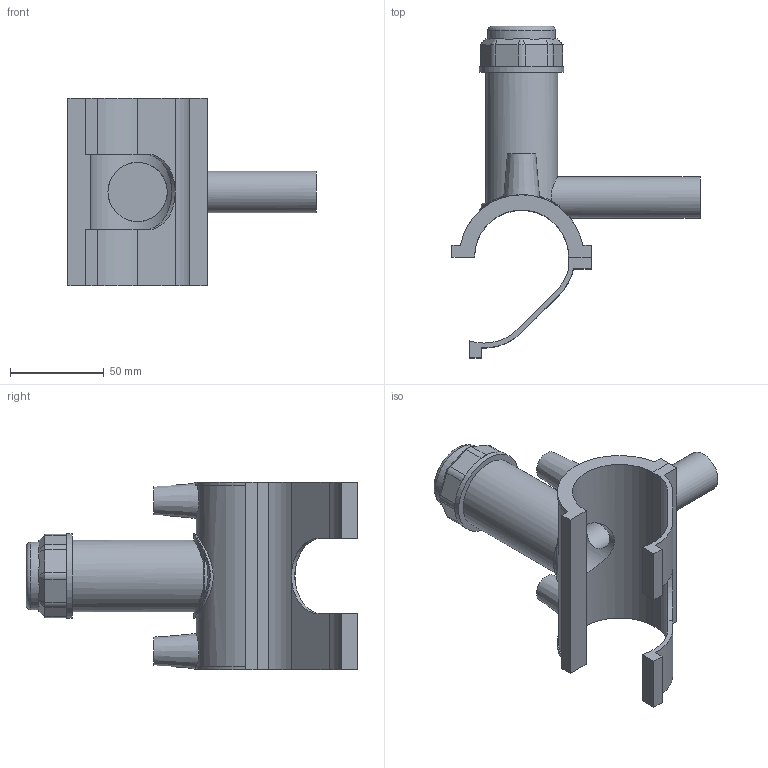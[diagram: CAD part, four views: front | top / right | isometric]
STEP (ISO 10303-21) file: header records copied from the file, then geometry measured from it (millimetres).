
FILE_DESCRIPTION(/* description */ ('PLASSON TAPPING SADDLE 1 1/2''''IPS x 1 3/4''''CTS'),/* implementation_level */ '2;1');
FILE_NAME(/* name */ 'C:\Dropbox\KIMPROJECTS-Inventor 2019\99-16-3568-Processing Inch\ASTM ElectroFusion 2021\5963B\5963BU03015007.ipt.stp',/* time_stamp */ '2021-08-30T09:56:01+03:00',/* author */ ('KIM'),/* organization */ (''),/* preprocessor_version */ 'ST-DEVELOPER v17.2',/* originating_system */ 'Autodesk Inventor 2019',/* authorisation */ '');
FILE_SCHEMA (('AUTOMOTIVE_DESIGN { 1 0 10303 214 3 1 1 }'));
Length unit declared in the file: millimetre
Products named in the file (1): 5963BU03015007
Bounding box: 132.08 x 176.62 x 100.08 mm (x, y, z)
Volume: 166930.5 mm3; surface area: 70786.1 mm2
Topology: 2 solids, 2 shells, 117 faces, 308 edges, 203 vertices
Faces by surface type: plane 68, cylinder 34, cone 13, torus 1, bspline 1
Full cylindrical faces by diameter (mm): 4 x2, 10 x2, 17.68 x1, 22.1 x1, 31.563 x1, 36.072 x1, 38.327 x1, 45.09 x1
Entity records: 4119 total; most frequent: CARTESIAN_POINT 1170, ORIENTED_EDGE 616, DIRECTION 601, EDGE_CURVE 308, AXIS2_PLACEMENT_3D 220, VERTEX_POINT 203, LINE 161, VECTOR 161
